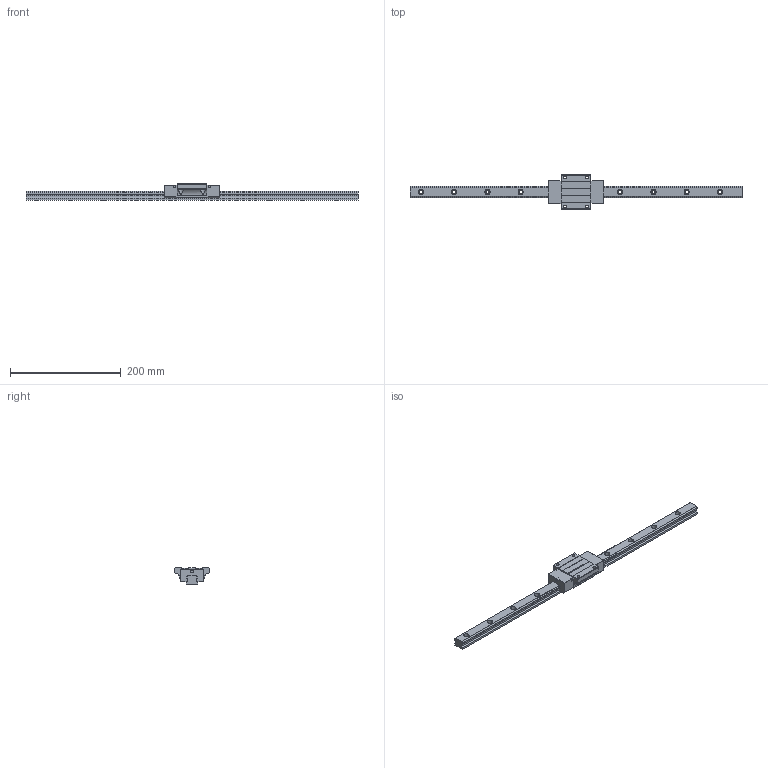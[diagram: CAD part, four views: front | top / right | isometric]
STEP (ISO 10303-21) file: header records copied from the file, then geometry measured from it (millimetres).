
FILE_DESCRIPTION (( 'STEP AP203' ), '1' );
FILE_NAME ('TRH20FN-DZ.STEP', '2024-07-04T06:09:38', ( '' ), ( '' ), 'SwSTEP 2.0', 'SolidWorks 2022', '' );
FILE_SCHEMA (( 'CONFIG_CONTROL_DESIGN' ));
Length unit declared in the file: millimetre
Products named in the file (1): TRH20FN-DZ
Bounding box: 600 x 63 x 30 mm (x, y, z)
Volume: 258014.7 mm3; surface area: 70640.9 mm2
Topology: 2 solids, 2 shells, 222 faces, 598 edges, 392 vertices
Faces by surface type: cylinder 126, plane 92, sphere 4
Entity records: 7691 total; most frequent: CARTESIAN_POINT 1835, DIRECTION 1242, ORIENTED_EDGE 1188, EDGE_CURVE 594, AXIS2_PLACEMENT_3D 451, VERTEX_POINT 392, LINE 340, VECTOR 340
